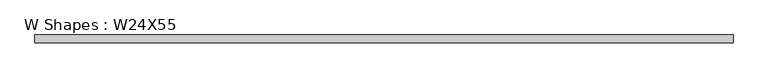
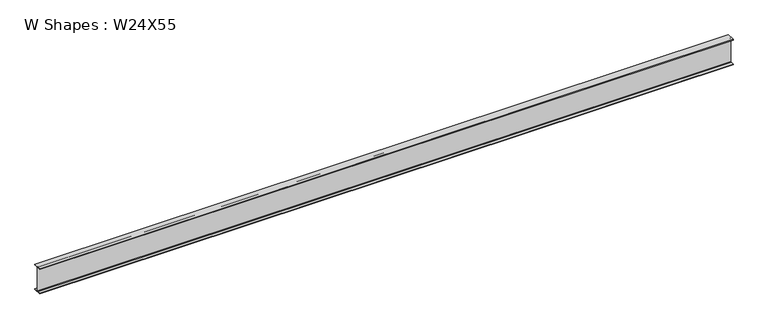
"""IFC4 building model written with IfcOpenShell, lengths in millimetres: beam geometry, W Shapes : W24X55."""

from ifc_helpers import new_model, si_unit, point, frame, frame_2d, origin, place, context, project, spatial, polyline, circle_curve, trimmed, segment, composite_curve, outline, extrude, source, transform, mapped, element, save


def w_shapes_w24x55_62e77ac5(model_context):
    return source(origin(), model_context, "Body", "SweptSolid", [
        extrude(outline(composite_curve([segment(polyline([(89.027, -286.893), (89.027, -299.72), (-89.027, -299.72), (-89.027, -286.893), (-17.8435, -286.893)]), True, "CONTINUOUS"), segment(trimmed(circle_curve(frame_2d((-17.8435, -274.066)), 12.827), [point((-17.8435, -286.893))], [point((-5.0165, -274.066))], True, "CARTESIAN"), True, "CONTINUOUS"), segment(polyline([(-5.0165, -274.066), (-5.0165, 274.066)]), True, "CONTINUOUS"), segment(trimmed(circle_curve(frame_2d((-17.8435, 274.066)), 12.827), [point((-5.0165, 274.066))], [point((-17.8435, 286.893))], True, "CARTESIAN"), True, "CONTINUOUS"), segment(polyline([(-17.8435, 286.893), (-89.027, 286.893), (-89.027, 299.72), (89.027, 299.72), (89.027, 286.893), (17.8435, 286.893)]), True, "CONTINUOUS"), segment(trimmed(circle_curve(frame_2d((17.8435, 274.066)), 12.827), [point((17.8435, 286.893))], [point((5.0165, 274.066))], True, "CARTESIAN"), True, "CONTINUOUS"), segment(polyline([(5.0165, 274.066), (5.0165, -274.066)]), True, "CONTINUOUS"), segment(trimmed(circle_curve(frame_2d((17.8435, -274.066)), 12.827), [point((5.0165, -274.066))], [point((17.8435, -286.893))], True, "CARTESIAN"), True, "CONTINUOUS"), segment(polyline([(17.8435, -286.893), (89.027, -286.893)]), True, "CONTINUOUS")], self_intersect=False)), frame((-7762.3, 0.0, 0.0), z_axis=(1.0, 0.0, 0.0), x_axis=(0.0, 1.0, 0.0)), (0.0, 0.0, 1.0), 15524.6),
    ])


if __name__ == "__main__":
    model = new_model("IFC4")
    model_context = context("Model", 3, world=origin())
    ifc_project = project(units=[si_unit("LENGTHUNIT", "METRE", prefix="MILLI")], contexts=[model_context])
    site = spatial("IfcSite", under=ifc_project)
    building = spatial("IfcBuilding", under=site)
    placement = place(None, origin())
    w_shapes_w24x55_shape = w_shapes_w24x55_62e77ac5(model_context)
    element("IfcBeam", 1, ObjectType="W Shapes : W24X55", at=placement, inside=building, context=model_context, shape_type="MappedRepresentation", body=[
        mapped(w_shapes_w24x55_shape, transform((0.0, 0.0, 0.0), x_axis=(1.0, 0.0, 0.0), y_axis=(0.0, 1.0, 0.0), z_axis=(0.0, 0.0, 1.0))),
    ])
    save(model, "model.ifc")
